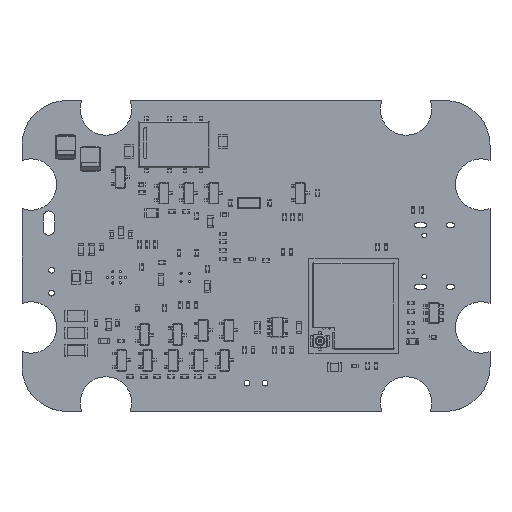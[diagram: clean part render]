
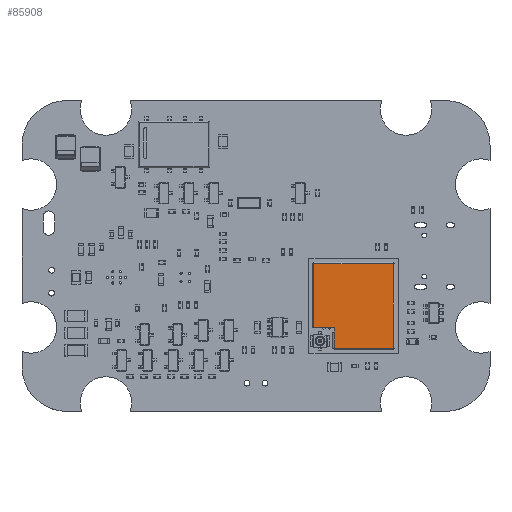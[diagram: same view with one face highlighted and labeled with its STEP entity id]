
A CAD part, top view. The second image highlights one B-rep face of the part: STEP entity #85908.
In plain terms, the highlighted planar face has unit normal (0, 0, 1) as drawn and (0, 1, 0) by its records, which use the part's own axes.
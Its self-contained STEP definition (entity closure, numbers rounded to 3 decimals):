
#85908 = ADVANCED_FACE('',(#85909),#85985,.F.);
#85909 = FACE_BOUND('',#85910,.T.);
#85910 = EDGE_LOOP('',(#85911,#85922,#85930,#85939,#85947,#85955,#85963,
    #85971,#85979));
#85911 = ORIENTED_EDGE('',*,*,#85912,.F.);
#85912 = EDGE_CURVE('',#85913,#85915,#85917,.T.);
#85913 = VERTEX_POINT('',#85914);
#85914 = CARTESIAN_POINT('',(2.975,1.6,-10.45));
#85915 = VERTEX_POINT('',#85916);
#85916 = CARTESIAN_POINT('',(3.075,1.6,-10.55));
#85917 = CIRCLE('',#85918,0.1);
#85918 = AXIS2_PLACEMENT_3D('',#85919,#85920,#85921);
#85919 = CARTESIAN_POINT('',(2.975,1.6,-10.55));
#85920 = DIRECTION('',(-0.,1.,0.));
#85921 = DIRECTION('',(0.,0.,-1.));
#85922 = ORIENTED_EDGE('',*,*,#85923,.F.);
#85923 = EDGE_CURVE('',#85924,#85913,#85926,.T.);
#85924 = VERTEX_POINT('',#85925);
#85925 = CARTESIAN_POINT('',(2.475,1.6,-10.45));
#85926 = LINE('',#85927,#85928);
#85927 = CARTESIAN_POINT('',(0.,1.6,-10.45));
#85928 = VECTOR('',#85929,1.);
#85929 = DIRECTION('',(1.,0.,0.));
#85930 = ORIENTED_EDGE('',*,*,#85931,.F.);
#85931 = EDGE_CURVE('',#85932,#85924,#85934,.T.);
#85932 = VERTEX_POINT('',#85933);
#85933 = CARTESIAN_POINT('',(2.388,1.6,-10.5));
#85934 = CIRCLE('',#85935,0.1);
#85935 = AXIS2_PLACEMENT_3D('',#85936,#85937,#85938);
#85936 = CARTESIAN_POINT('',(2.475,1.6,-10.55));
#85937 = DIRECTION('',(-0.,1.,0.));
#85938 = DIRECTION('',(0.,0.,-1.));
#85939 = ORIENTED_EDGE('',*,*,#85940,.F.);
#85940 = EDGE_CURVE('',#85941,#85932,#85943,.T.);
#85941 = VERTEX_POINT('',#85942);
#85942 = CARTESIAN_POINT('',(0.2,1.6,-10.5));
#85943 = LINE('',#85944,#85945);
#85944 = CARTESIAN_POINT('',(0.,1.6,-10.5));
#85945 = VECTOR('',#85946,1.);
#85946 = DIRECTION('',(1.,0.,0.));
#85947 = ORIENTED_EDGE('',*,*,#85948,.F.);
#85948 = EDGE_CURVE('',#85949,#85941,#85951,.T.);
#85949 = VERTEX_POINT('',#85950);
#85950 = CARTESIAN_POINT('',(0.2,1.6,-2.2));
#85951 = LINE('',#85952,#85953);
#85952 = CARTESIAN_POINT('',(0.2,1.6,0.));
#85953 = VECTOR('',#85954,1.);
#85954 = DIRECTION('',(0.,-0.,-1.));
#85955 = ORIENTED_EDGE('',*,*,#85956,.F.);
#85956 = EDGE_CURVE('',#85957,#85949,#85959,.T.);
#85957 = VERTEX_POINT('',#85958);
#85958 = CARTESIAN_POINT('',(12.05,1.6,-2.2));
#85959 = LINE('',#85960,#85961);
#85960 = CARTESIAN_POINT('',(0.,1.6,-2.2));
#85961 = VECTOR('',#85962,1.);
#85962 = DIRECTION('',(-1.,-0.,-0.));
#85963 = ORIENTED_EDGE('',*,*,#85964,.F.);
#85964 = EDGE_CURVE('',#85965,#85957,#85967,.T.);
#85965 = VERTEX_POINT('',#85966);
#85966 = CARTESIAN_POINT('',(12.05,1.6,-13.35));
#85967 = LINE('',#85968,#85969);
#85968 = CARTESIAN_POINT('',(12.05,1.6,0.));
#85969 = VECTOR('',#85970,1.);
#85970 = DIRECTION('',(-0.,0.,1.));
#85971 = ORIENTED_EDGE('',*,*,#85972,.F.);
#85972 = EDGE_CURVE('',#85973,#85965,#85975,.T.);
#85973 = VERTEX_POINT('',#85974);
#85974 = CARTESIAN_POINT('',(3.075,1.6,-13.35));
#85975 = LINE('',#85976,#85977);
#85976 = CARTESIAN_POINT('',(0.,1.6,-13.35));
#85977 = VECTOR('',#85978,1.);
#85978 = DIRECTION('',(1.,0.,0.));
#85979 = ORIENTED_EDGE('',*,*,#85980,.F.);
#85980 = EDGE_CURVE('',#85915,#85973,#85981,.T.);
#85981 = LINE('',#85982,#85983);
#85982 = CARTESIAN_POINT('',(3.075,1.6,0.));
#85983 = VECTOR('',#85984,1.);
#85984 = DIRECTION('',(0.,-0.,-1.));
#85985 = PLANE('',#85986);
#85986 = AXIS2_PLACEMENT_3D('',#85987,#85988,#85989);
#85987 = CARTESIAN_POINT('',(0.,1.6,0.));
#85988 = DIRECTION('',(0.,-1.,0.));
#85989 = DIRECTION('',(0.,-0.,-1.));
